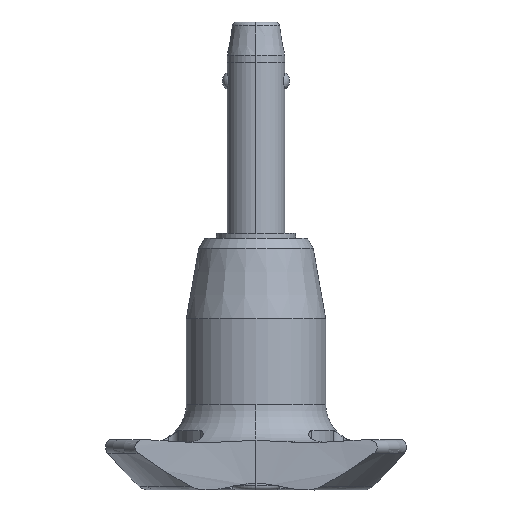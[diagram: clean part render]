
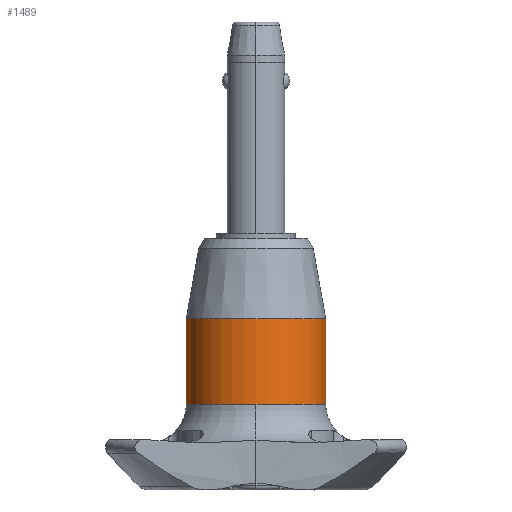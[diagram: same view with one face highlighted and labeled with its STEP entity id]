
A CAD part, left-side view. The second image highlights one B-rep face of the part: STEP entity #1489.
In plain terms, the highlighted cylindrical face has radius 7.25 mm (diameter 14.5 mm), a partial arc.
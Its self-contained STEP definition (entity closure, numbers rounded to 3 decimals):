
#14 = CIRCLE ( 'NONE', #474, 7.25 ) ;
#187 = EDGE_LOOP ( 'NONE', ( #1050, #1243, #1672, #2412, #1405 ) ) ;
#209 = EDGE_CURVE ( 'NONE', #669, #498, #1990, .T. ) ;
#236 = CARTESIAN_POINT ( 'NONE',  ( 0., 7.25, -23.9 ) ) ;
#260 = VERTEX_POINT ( 'NONE', #2478 ) ;
#268 = EDGE_CURVE ( 'NONE', #260, #615, #2288, .T. ) ;
#320 = CARTESIAN_POINT ( 'NONE',  ( 0., 0., -23.9 ) ) ;
#431 = VECTOR ( 'NONE', #1610, 1000. ) ;
#474 = AXIS2_PLACEMENT_3D ( 'NONE', #320, #2289, #2060 ) ;
#480 = FACE_OUTER_BOUND ( 'NONE', #187, .T. ) ;
#498 = VERTEX_POINT ( 'NONE', #1881 ) ;
#508 = CARTESIAN_POINT ( 'NONE',  ( 0., 0., -32.8 ) ) ;
#515 = AXIS2_PLACEMENT_3D ( 'NONE', #558, #1873, #1663 ) ;
#558 = CARTESIAN_POINT ( 'NONE',  ( 0., 0., -32.8 ) ) ;
#615 = VERTEX_POINT ( 'NONE', #2563 ) ;
#669 = VERTEX_POINT ( 'NONE', #236 ) ;
#692 = VECTOR ( 'NONE', #2642, 1000. ) ;
#936 = CARTESIAN_POINT ( 'NONE',  ( 0., 7.25, -32.8 ) ) ;
#975 = CARTESIAN_POINT ( 'NONE',  ( 0., 0., -32.8 ) ) ;
#976 = CIRCLE ( 'NONE', #1340, 7.25 ) ;
#1050 = ORIENTED_EDGE ( 'NONE', *, *, #1290, .F. ) ;
#1178 = CARTESIAN_POINT ( 'NONE',  ( 0., -7.25, -32.8 ) ) ;
#1193 = LINE ( 'NONE', #1178, #431 ) ;
#1243 = ORIENTED_EDGE ( 'NONE', *, *, #2582, .T. ) ;
#1290 = EDGE_CURVE ( 'NONE', #2286, #260, #1193, .T. ) ;
#1340 = AXIS2_PLACEMENT_3D ( 'NONE', #975, #1885, #1418 ) ;
#1344 = CYLINDRICAL_SURFACE ( 'NONE', #2337, 7.25 ) ;
#1405 = ORIENTED_EDGE ( 'NONE', *, *, #268, .F. ) ;
#1418 = DIRECTION ( 'NONE',  ( 0., 1., 0. ) ) ;
#1489 = ADVANCED_FACE ( 'NONE', ( #480 ), #1344, .T. ) ;
#1610 = DIRECTION ( 'NONE',  ( 0., 0., -1. ) ) ;
#1663 = DIRECTION ( 'NONE',  ( 0., 1., 0. ) ) ;
#1672 = ORIENTED_EDGE ( 'NONE', *, *, #209, .T. ) ;
#1704 = CARTESIAN_POINT ( 'NONE',  ( 0., -7.25, -23.9 ) ) ;
#1873 = DIRECTION ( 'NONE',  ( 0., 0., -1. ) ) ;
#1881 = CARTESIAN_POINT ( 'NONE',  ( 0., 7.25, -32.8 ) ) ;
#1885 = DIRECTION ( 'NONE',  ( 0., 0., -1. ) ) ;
#1902 = EDGE_CURVE ( 'NONE', #615, #498, #976, .T. ) ;
#1990 = LINE ( 'NONE', #936, #692 ) ;
#2060 = DIRECTION ( 'NONE',  ( 0., 1., 0. ) ) ;
#2243 = DIRECTION ( 'NONE',  ( 0., 0., -1. ) ) ;
#2286 = VERTEX_POINT ( 'NONE', #1704 ) ;
#2288 = CIRCLE ( 'NONE', #515, 7.25 ) ;
#2289 = DIRECTION ( 'NONE',  ( 0., 0., -1. ) ) ;
#2337 = AXIS2_PLACEMENT_3D ( 'NONE', #508, #2243, #2441 ) ;
#2412 = ORIENTED_EDGE ( 'NONE', *, *, #1902, .F. ) ;
#2441 = DIRECTION ( 'NONE',  ( 0., 1., 0. ) ) ;
#2478 = CARTESIAN_POINT ( 'NONE',  ( 0., -7.25, -32.8 ) ) ;
#2563 = CARTESIAN_POINT ( 'NONE',  ( -7.25, 0., -32.8 ) ) ;
#2582 = EDGE_CURVE ( 'NONE', #2286, #669, #14, .T. ) ;
#2642 = DIRECTION ( 'NONE',  ( 0., 0., -1. ) ) ;
